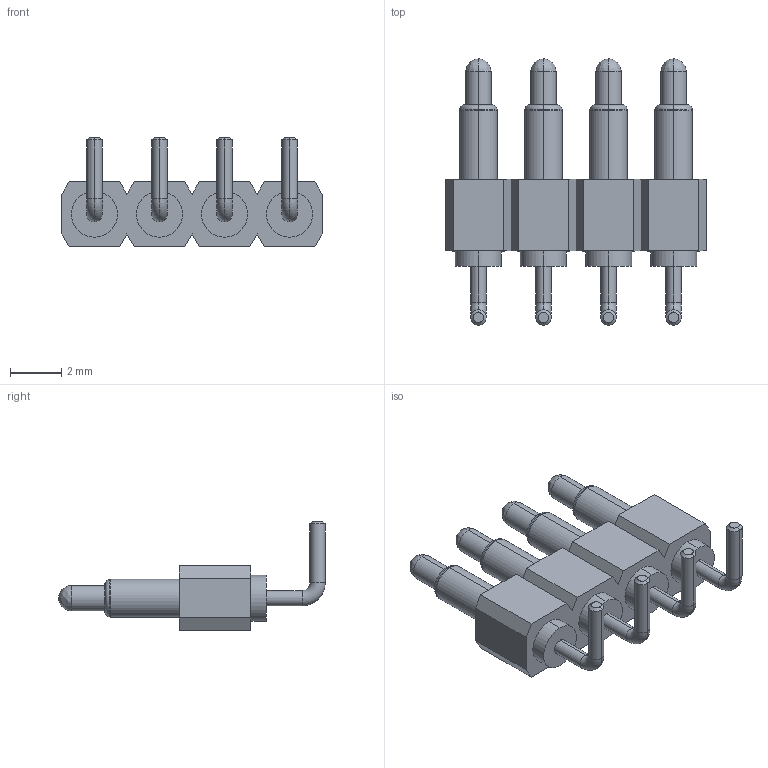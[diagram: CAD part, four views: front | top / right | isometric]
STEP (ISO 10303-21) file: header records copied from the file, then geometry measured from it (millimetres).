
FILE_DESCRIPTION((''),'2;1');
FILE_NAME('NC3676-04RA_ASM','2021-08-11T14:51:05',('Administrator'),(''),'CREO PARAMETRIC BY PTC INC, 2018400','CREO PARAMETRIC BY PTC INC, 2018400','');
FILE_SCHEMA(('CONFIG_CONTROL_DESIGN'));
Length unit declared in the file: millimetre
Products named in the file (3): HOUSING; NC3676; NC3676-04RA_ASM
Assembly tree (5 placements, depth 2):
  NC3676-04RA_ASM
    HOUSING
    NC3676  x4
Bounding box: 10.16 x 10.4 x 4.27 mm (x, y, z)
Volume: 104.2 mm3; surface area: 359.6 mm2
Topology: 5 solids, 5 shells, 160 faces, 350 edges, 208 vertices
Faces by surface type: cylinder 64, plane 48, cone 24, torus 16, bspline 8
Entity records: 2126 total; most frequent: CARTESIAN_POINT 394, DIRECTION 364, ORIENTED_EDGE 324, EDGE_CURVE 162, AXIS2_PLACEMENT_3D 129, VECTOR 106, LINE 106, VERTEX_POINT 103
